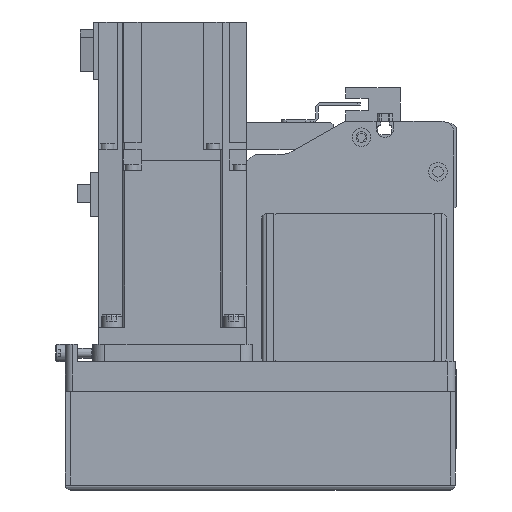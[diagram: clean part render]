
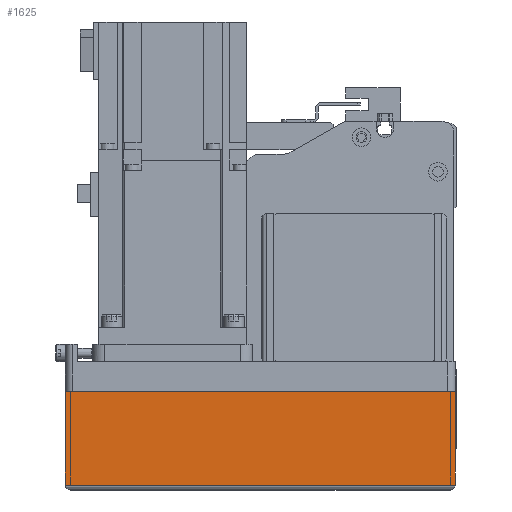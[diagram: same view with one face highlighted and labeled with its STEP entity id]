
A CAD part, left-side view. The second image highlights one B-rep face of the part: STEP entity #1625.
In plain terms, the highlighted planar face has unit normal (-1, 0, 0) as drawn and (0, -1, 0) by its records, which use the part's own axes.
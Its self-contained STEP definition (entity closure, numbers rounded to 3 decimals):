
#1625 = ADVANCED_FACE( '', ( #4047 ), #4048, .T. );
#4047 = FACE_OUTER_BOUND( '', #7489, .T. );
#4048 = PLANE( '', #7490 );
#7489 = EDGE_LOOP( '', ( #12148, #12149, #12150, #12151 ) );
#7490 = AXIS2_PLACEMENT_3D( '', #12152, #12153, #12154 );
#12148 = ORIENTED_EDGE( '', *, *, #19510, .F. );
#12149 = ORIENTED_EDGE( '', *, *, #19917, .F. );
#12150 = ORIENTED_EDGE( '', *, *, #20613, .T. );
#12151 = ORIENTED_EDGE( '', *, *, #20614, .T. );
#12152 = CARTESIAN_POINT( '', ( -158., -39., -12.1 ) );
#12153 = DIRECTION( '', ( 0., -1., 0. ) );
#12154 = DIRECTION( '', ( 0., 0., -1. ) );
#19510 = EDGE_CURVE( '', #23147, #23149, #23150, .T. );
#19917 = EDGE_CURVE( '', #23883, #23147, #23884, .T. );
#20613 = EDGE_CURVE( '', #23883, #25057, #25058, .T. );
#20614 = EDGE_CURVE( '', #25057, #23149, #25059, .T. );
#23147 = VERTEX_POINT( '', #28529 );
#23149 = VERTEX_POINT( '', #28532 );
#23150 = LINE( '', #28533, #28534 );
#23883 = VERTEX_POINT( '', #29571 );
#23884 = LINE( '', #29572, #29573 );
#25057 = VERTEX_POINT( '', #31645 );
#25058 = LINE( '', #31646, #31647 );
#25059 = LINE( '', #31648, #31649 );
#28529 = CARTESIAN_POINT( '', ( 0., -39., -12.1 ) );
#28532 = CARTESIAN_POINT( '', ( 0., -39., -50. ) );
#28533 = CARTESIAN_POINT( '', ( 0., -39., -12.1 ) );
#28534 = VECTOR( '', #36452, 1000. );
#29571 = CARTESIAN_POINT( '', ( -158., -39., -12.1 ) );
#29572 = CARTESIAN_POINT( '', ( -158., -39., -12.1 ) );
#29573 = VECTOR( '', #37025, 1000. );
#31645 = CARTESIAN_POINT( '', ( -158., -39., -50. ) );
#31646 = CARTESIAN_POINT( '', ( -158., -39., -12.1 ) );
#31647 = VECTOR( '', #37931, 1000. );
#31648 = CARTESIAN_POINT( '', ( -158., -39., -50. ) );
#31649 = VECTOR( '', #37932, 1000. );
#36452 = DIRECTION( '', ( 0., 0., -1. ) );
#37025 = DIRECTION( '', ( 1., 0., 0. ) );
#37931 = DIRECTION( '', ( 0., 0., -1. ) );
#37932 = DIRECTION( '', ( 1., 0., 0. ) );
